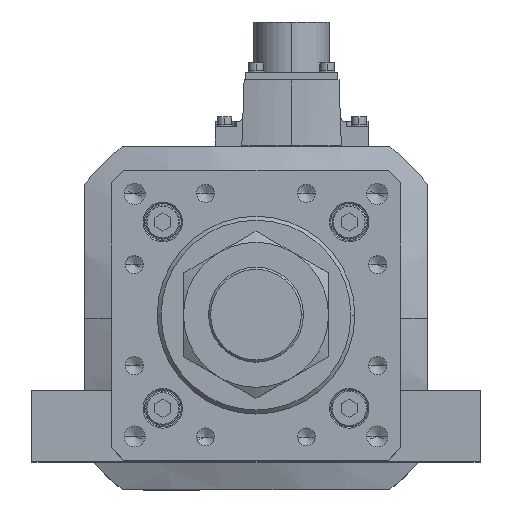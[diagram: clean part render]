
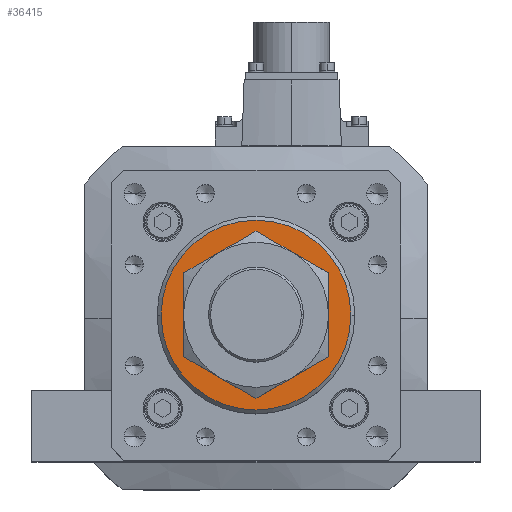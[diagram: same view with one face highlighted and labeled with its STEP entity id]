
A CAD part, top view. The second image highlights one B-rep face of the part: STEP entity #36415.
In plain terms, the highlighted planar face has unit normal (0, 0, 1).
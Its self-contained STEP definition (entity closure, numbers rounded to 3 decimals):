
#249 = EDGE_CURVE ( 'NONE', #29638, #10089, #14815, .T. ) ;
#587 = CARTESIAN_POINT ( 'NONE',  ( 0., 0., 396. ) ) ;
#895 = EDGE_CURVE ( 'NONE', #13547, #30602, #18927, .T. ) ;
#2621 = ORIENTED_EDGE ( 'NONE', *, *, #27814, .T. ) ;
#2780 = CARTESIAN_POINT ( 'NONE',  ( 36., 0., 396. ) ) ;
#2858 = DIRECTION ( 'NONE',  ( 0., 0., -1. ) ) ;
#2924 = DIRECTION ( 'NONE',  ( 0., 0., -1. ) ) ;
#3110 = CARTESIAN_POINT ( 'NONE',  ( 23., 0., 396. ) ) ;
#4805 = FACE_BOUND ( 'NONE', #18796, .T. ) ;
#5125 = ORIENTED_EDGE ( 'NONE', *, *, #249, .T. ) ;
#5719 = EDGE_LOOP ( 'NONE', ( #33730, #31725 ) ) ;
#6523 = DIRECTION ( 'NONE',  ( 1., 0., 0. ) ) ;
#8774 = DIRECTION ( 'NONE',  ( 1., 0., 0. ) ) ;
#9909 = DIRECTION ( 'NONE',  ( 0., 0., 1. ) ) ;
#10089 = VERTEX_POINT ( 'NONE', #36709 ) ;
#10095 = CARTESIAN_POINT ( 'NONE',  ( -36., 0., 396. ) ) ;
#12900 = AXIS2_PLACEMENT_3D ( 'NONE', #36490, #9909, #36621 ) ;
#13547 = VERTEX_POINT ( 'NONE', #10095 ) ;
#14805 = EDGE_CURVE ( 'NONE', #30602, #13547, #37467, .T. ) ;
#14815 = CIRCLE ( 'NONE', #31226, 23. ) ;
#14827 = AXIS2_PLACEMENT_3D ( 'NONE', #18698, #21693, #22463 ) ;
#18514 = DIRECTION ( 'NONE',  ( 1., 0., 0. ) ) ;
#18698 = CARTESIAN_POINT ( 'NONE',  ( 0., 0., 396. ) ) ;
#18796 = EDGE_LOOP ( 'NONE', ( #5125, #2621 ) ) ;
#18927 = CIRCLE ( 'NONE', #12900, 36. ) ;
#20665 = CARTESIAN_POINT ( 'NONE',  ( 0., 0., 396. ) ) ;
#21693 = DIRECTION ( 'NONE',  ( 0., 0., 1. ) ) ;
#22463 = DIRECTION ( 'NONE',  ( 1., 0., 0. ) ) ;
#22465 = AXIS2_PLACEMENT_3D ( 'NONE', #20665, #2924, #8774 ) ;
#24277 = DIRECTION ( 'NONE',  ( 0., 0., 1. ) ) ;
#27761 = PLANE ( 'NONE',  #14827 ) ;
#27814 = EDGE_CURVE ( 'NONE', #10089, #29638, #32323, .T. ) ;
#29638 = VERTEX_POINT ( 'NONE', #3110 ) ;
#29775 = CARTESIAN_POINT ( 'NONE',  ( 0., 0., 396. ) ) ;
#30602 = VERTEX_POINT ( 'NONE', #2780 ) ;
#30798 = AXIS2_PLACEMENT_3D ( 'NONE', #587, #24277, #6523 ) ;
#31226 = AXIS2_PLACEMENT_3D ( 'NONE', #29775, #2858, #18514 ) ;
#31725 = ORIENTED_EDGE ( 'NONE', *, *, #14805, .T. ) ;
#32323 = CIRCLE ( 'NONE', #22465, 23. ) ;
#33730 = ORIENTED_EDGE ( 'NONE', *, *, #895, .T. ) ;
#34469 = FACE_OUTER_BOUND ( 'NONE', #5719, .T. ) ;
#36415 = ADVANCED_FACE ( 'NONE', ( #4805, #34469 ), #27761, .T. ) ;
#36490 = CARTESIAN_POINT ( 'NONE',  ( 0., 0., 396. ) ) ;
#36621 = DIRECTION ( 'NONE',  ( 1., 0., 0. ) ) ;
#36709 = CARTESIAN_POINT ( 'NONE',  ( -23., 0., 396. ) ) ;
#37467 = CIRCLE ( 'NONE', #30798, 36. ) ;
